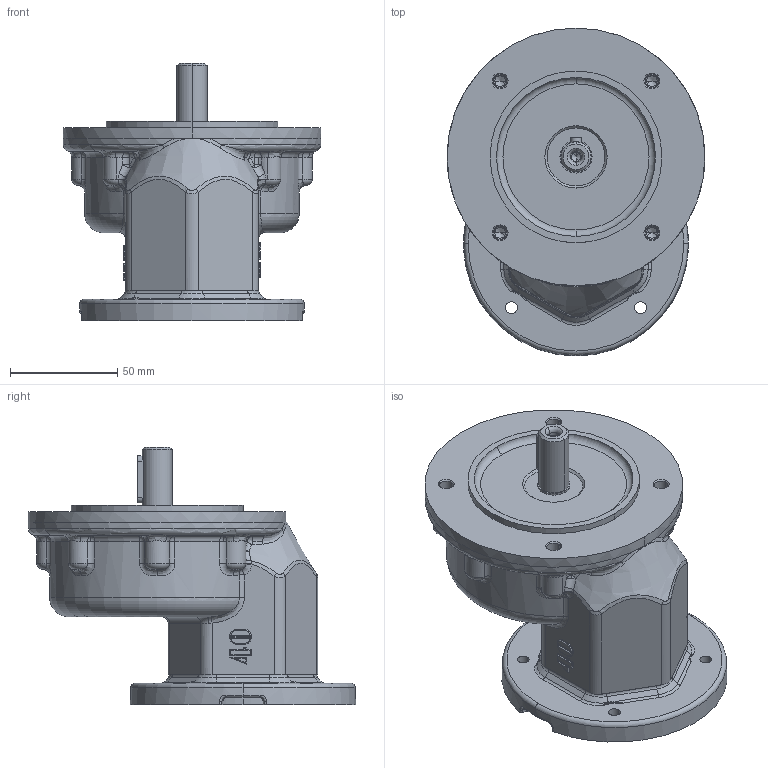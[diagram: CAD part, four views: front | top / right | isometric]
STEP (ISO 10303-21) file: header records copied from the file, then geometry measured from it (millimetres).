
FILE_DESCRIPTION (( 'STEP AP214' ), '1' );
FILE_NAME ('Sestava ATC40.STEP', '2010-01-28T09:18:59', ( '' ), ( '' ), 'SwSTEP 2.0', 'SolidWorks 2003240', '' );
FILE_SCHEMA (( 'AUTOMOTIVE_DESIGN' ));
Length unit declared in the file: millimetre
Products named in the file (4): D6912_Šroub DIN 6912 - M5x16; pøíruba 85 d52 MRT50a_priruba 85-MRT50; ATC40_ATC40-AP71; Sestava ATC40
Assembly tree (8 placements, depth 2):
  Sestava ATC40
    D6912_Šroub DIN 6912 - M5x16  x6
    ATC40_ATC40-AP71
    pøíruba 85 d52 MRT50a_priruba 85-MRT50
Bounding box: 120 x 152.5 x 120 mm (x, y, z)
Volume: 621876.6 mm3; surface area: 82342.1 mm2
Topology: 8 solids, 8 shells, 1061 faces, 2389 edges, 1322 vertices
Faces by surface type: cylinder 261, torus 222, plane 209, cone 186, bspline 165, sphere 18
Entity records: 124507 total; most frequent: CARTESIAN_POINT 104916, DIRECTION 4145, ORIENTED_EDGE 3994, EDGE_CURVE 1997, AXIS2_PLACEMENT_3D 1800, VERTEX_POINT 1165, CIRCLE 1078, EDGE_LOOP 936
